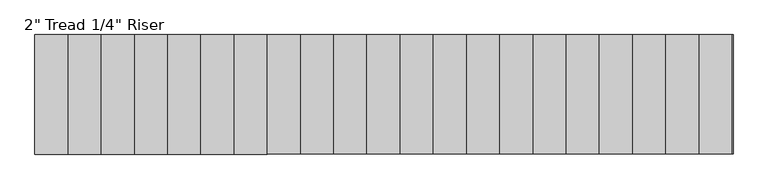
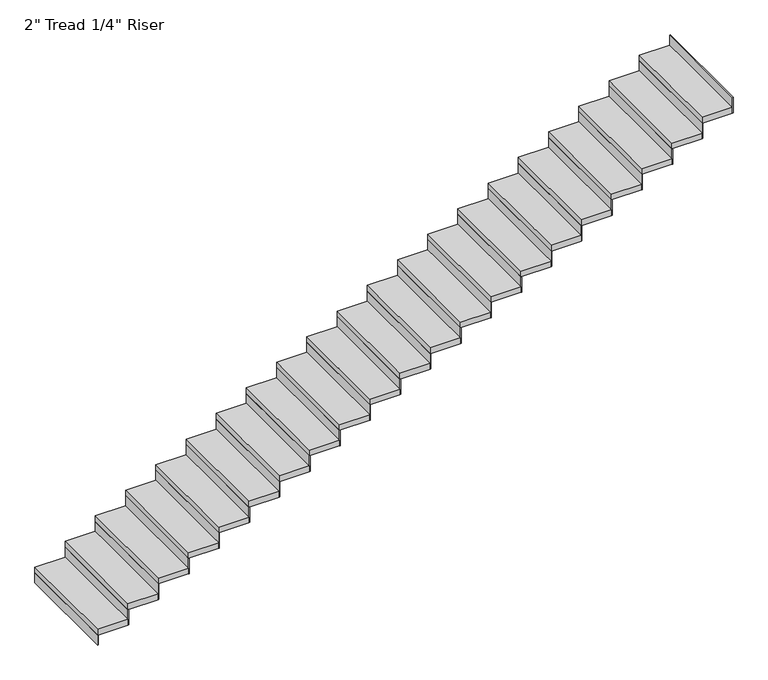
"""IFC4 building model written with IfcOpenShell, lengths in millimetres: stair flight geometry."""

from ifc_helpers import new_model, si_unit, frame, origin, origin_with_axes, place, context, project, spatial, polyline, outline, extrude, source, transform, mapped, element, save


def stair_flight_5e9071b4(model_context):
    return source(origin(), model_context, "Body", "SweptSolid", [
        extrude(outline(polyline([(-1725.3713318, -10136.835031), (-1731.7213318, -10136.835031), (-1731.7213318, -9222.435031), (-1725.3713318, -9222.435031), (-1725.3713318, -10136.835031)])), origin_with_axes(), (0.0, 0.0, 1.0), 87.7454545),
        extrude(outline(polyline([(-1477.7213318, -9222.435031), (-1477.7213318, -10136.835031), (-1731.7213318, -10136.835031), (-1731.7213318, -9222.435031), (-1477.7213318, -9222.435031)])), frame((0.0, 0.0, 87.7454545), z_axis=(0.0, 0.0, 1.0), x_axis=(1.0, 0.0, 0.0)), (0.0, 0.0, 1.0), 50.8),
        extrude(outline(polyline([(-1471.3713318, -10136.835031), (-1477.7213318, -10136.835031), (-1477.7213318, -9222.435031), (-1471.3713318, -9222.435031), (-1471.3713318, -10136.835031)])), frame((0.0, 0.0, 87.7454545), z_axis=(0.0, 0.0, 1.0), x_axis=(1.0, 0.0, 0.0)), (0.0, 0.0, 1.0), 138.5454545),
        extrude(outline(polyline([(-1223.7213318, -9222.435031), (-1223.7213318, -10136.835031), (-1477.7213318, -10136.835031), (-1477.7213318, -9222.435031), (-1223.7213318, -9222.435031)])), frame((0.0, 0.0, 226.2909091), z_axis=(0.0, 0.0, 1.0), x_axis=(1.0, 0.0, 0.0)), (0.0, 0.0, 1.0), 50.8),
        extrude(outline(polyline([(-1217.3713318, -10136.835031), (-1223.7213318, -10136.835031), (-1223.7213318, -9222.435031), (-1217.3713318, -9222.435031), (-1217.3713318, -10136.835031)])), frame((0.0, 0.0, 226.2909091), z_axis=(0.0, 0.0, 1.0), x_axis=(1.0, 0.0, 0.0)), (0.0, 0.0, 1.0), 138.5454545),
        extrude(outline(polyline([(-969.7213318, -9222.435031), (-969.7213318, -10136.835031), (-1223.7213318, -10136.835031), (-1223.7213318, -9222.435031), (-969.7213318, -9222.435031)])), frame((0.0, 0.0, 364.8363636), z_axis=(0.0, 0.0, 1.0), x_axis=(1.0, 0.0, 0.0)), (0.0, 0.0, 1.0), 50.8),
        extrude(outline(polyline([(-963.3713318, -10136.835031), (-969.7213318, -10136.835031), (-969.7213318, -9222.435031), (-963.3713318, -9222.435031), (-963.3713318, -10136.835031)])), frame((0.0, 0.0, 364.8363636), z_axis=(0.0, 0.0, 1.0), x_axis=(1.0, 0.0, 0.0)), (0.0, 0.0, 1.0), 138.5454545),
        extrude(outline(polyline([(-715.7213318, -9222.435031), (-715.7213318, -10136.835031), (-969.7213318, -10136.835031), (-969.7213318, -9222.435031), (-715.7213318, -9222.435031)])), frame((0.0, 0.0, 503.3818182), z_axis=(0.0, 0.0, 1.0), x_axis=(1.0, 0.0, 0.0)), (0.0, 0.0, 1.0), 50.8),
        extrude(outline(polyline([(-709.3713318, -10136.835031), (-715.7213318, -10136.835031), (-715.7213318, -9222.435031), (-709.3713318, -9222.435031), (-709.3713318, -10136.835031)])), frame((0.0, 0.0, 503.3818182), z_axis=(0.0, 0.0, 1.0), x_axis=(1.0, 0.0, 0.0)), (0.0, 0.0, 1.0), 138.5454545),
        extrude(outline(polyline([(-461.7213318, -9222.435031), (-461.7213318, -10136.835031), (-715.7213318, -10136.835031), (-715.7213318, -9222.435031), (-461.7213318, -9222.435031)])), frame((0.0, 0.0, 641.9272727), z_axis=(0.0, 0.0, 1.0), x_axis=(1.0, 0.0, 0.0)), (0.0, 0.0, 1.0), 50.8),
        extrude(outline(polyline([(-455.3713318, -10136.835031), (-461.7213318, -10136.835031), (-461.7213318, -9222.435031), (-455.3713318, -9222.435031), (-455.3713318, -10136.835031)])), frame((0.0, 0.0, 641.9272727), z_axis=(0.0, 0.0, 1.0), x_axis=(1.0, 0.0, 0.0)), (0.0, 0.0, 1.0), 138.5454545),
        extrude(outline(polyline([(-207.7213318, -9222.435031), (-207.7213318, -10136.835031), (-461.7213318, -10136.835031), (-461.7213318, -9222.435031), (-207.7213318, -9222.435031)])), frame((0.0, 0.0, 780.4727273), z_axis=(0.0, 0.0, 1.0), x_axis=(1.0, 0.0, 0.0)), (0.0, 0.0, 1.0), 50.8),
        extrude(outline(polyline([(-201.3713318, -10136.835031), (-207.7213318, -10136.835031), (-207.7213318, -9222.435031), (-201.3713318, -9222.435031), (-201.3713318, -10136.835031)])), frame((0.0, 0.0, 780.4727273), z_axis=(0.0, 0.0, 1.0), x_axis=(1.0, 0.0, 0.0)), (0.0, 0.0, 1.0), 138.5454545),
        extrude(outline(polyline([(46.2786682, -9222.435031), (46.2786682, -10136.835031), (-207.7213318, -10136.835031), (-207.7213318, -9222.435031), (46.2786682, -9222.435031)])), frame((0.0, 0.0, 919.0181818), z_axis=(0.0, 0.0, 1.0), x_axis=(1.0, 0.0, 0.0)), (0.0, 0.0, 1.0), 50.8),
        extrude(outline(polyline([(52.6286682, -10136.835031), (46.2786682, -10136.835031), (46.2786682, -9222.435031), (52.6286682, -9222.435031), (52.6286682, -10136.835031)])), frame((0.0, 0.0, 919.0181818), z_axis=(0.0, 0.0, 1.0), x_axis=(1.0, 0.0, 0.0)), (0.0, 0.0, 1.0), 138.5454545),
        extrude(outline(polyline([(300.2786682, -9222.435031), (300.2786682, -10136.835031), (46.2786682, -10136.835031), (46.2786682, -9222.435031), (300.2786682, -9222.435031)])), frame((0.0, 0.0, 1057.5636364), z_axis=(0.0, 0.0, 1.0), x_axis=(1.0, 0.0, 0.0)), (0.0, 0.0, 1.0), 50.8),
        extrude(outline(polyline([(306.6286682, -10136.835031), (300.2786682, -10136.835031), (300.2786682, -9222.435031), (306.6286682, -9222.435031), (306.6286682, -10136.835031)])), frame((0.0, 0.0, 1057.5636364), z_axis=(0.0, 0.0, 1.0), x_axis=(1.0, 0.0, 0.0)), (0.0, 0.0, 1.0), 138.5454545),
        extrude(outline(polyline([(554.2786682, -9222.435031), (554.2786682, -10136.835031), (300.2786682, -10136.835031), (300.2786682, -9222.435031), (554.2786682, -9222.435031)])), frame((0.0, 0.0, 1196.1090909), z_axis=(0.0, 0.0, 1.0), x_axis=(1.0, 0.0, 0.0)), (0.0, 0.0, 1.0), 50.8),
        extrude(outline(polyline([(560.6286682, -10136.835031), (554.2786682, -10136.835031), (554.2786682, -9222.435031), (560.6286682, -9222.435031), (560.6286682, -10136.835031)])), frame((0.0, 0.0, 1196.1090909), z_axis=(0.0, 0.0, 1.0), x_axis=(1.0, 0.0, 0.0)), (0.0, 0.0, 1.0), 138.5454545),
        extrude(outline(polyline([(808.2786682, -9222.435031), (808.2786682, -10136.835031), (554.2786682, -10136.835031), (554.2786682, -9222.435031), (808.2786682, -9222.435031)])), frame((0.0, 0.0, 1334.6545455), z_axis=(0.0, 0.0, 1.0), x_axis=(1.0, 0.0, 0.0)), (0.0, 0.0, 1.0), 50.8),
        extrude(outline(polyline([(814.6286682, -10136.835031), (808.2786682, -10136.835031), (808.2786682, -9222.435031), (814.6286682, -9222.435031), (814.6286682, -10136.835031)])), frame((0.0, 0.0, 1334.6545455), z_axis=(0.0, 0.0, 1.0), x_axis=(1.0, 0.0, 0.0)), (0.0, 0.0, 1.0), 138.5454545),
        extrude(outline(polyline([(1062.2786682, -9222.435031), (1062.2786682, -10136.835031), (808.2786682, -10136.835031), (808.2786682, -9222.435031), (1062.2786682, -9222.435031)])), frame((0.0, 0.0, 1473.2), z_axis=(0.0, 0.0, 1.0), x_axis=(1.0, 0.0, 0.0)), (0.0, 0.0, 1.0), 50.8),
        extrude(outline(polyline([(1068.6286682, -10136.835031), (1062.2786682, -10136.835031), (1062.2786682, -9222.435031), (1068.6286682, -9222.435031), (1068.6286682, -10136.835031)])), frame((0.0, 0.0, 1473.2), z_axis=(0.0, 0.0, 1.0), x_axis=(1.0, 0.0, 0.0)), (0.0, 0.0, 1.0), 138.5454545),
        extrude(outline(polyline([(1316.2786682, -9222.435031), (1316.2786682, -10136.835031), (1062.2786682, -10136.835031), (1062.2786682, -9222.435031), (1316.2786682, -9222.435031)])), frame((0.0, 0.0, 1611.7454545), z_axis=(0.0, 0.0, 1.0), x_axis=(1.0, 0.0, 0.0)), (0.0, 0.0, 1.0), 50.8),
        extrude(outline(polyline([(1322.6286682, -10136.835031), (1316.2786682, -10136.835031), (1316.2786682, -9222.435031), (1322.6286682, -9222.435031), (1322.6286682, -10136.835031)])), frame((0.0, 0.0, 1611.7454545), z_axis=(0.0, 0.0, 1.0), x_axis=(1.0, 0.0, 0.0)), (0.0, 0.0, 1.0), 138.5454545),
        extrude(outline(polyline([(1570.2786682, -9222.435031), (1570.2786682, -10136.835031), (1316.2786682, -10136.835031), (1316.2786682, -9222.435031), (1570.2786682, -9222.435031)])), frame((0.0, 0.0, 1750.2909091), z_axis=(0.0, 0.0, 1.0), x_axis=(1.0, 0.0, 0.0)), (0.0, 0.0, 1.0), 50.8),
        extrude(outline(polyline([(1576.6286682, -10136.835031), (1570.2786682, -10136.835031), (1570.2786682, -9222.435031), (1576.6286682, -9222.435031), (1576.6286682, -10136.835031)])), frame((0.0, 0.0, 1750.2909091), z_axis=(0.0, 0.0, 1.0), x_axis=(1.0, 0.0, 0.0)), (0.0, 0.0, 1.0), 138.5454545),
        extrude(outline(polyline([(1824.2786682, -9222.435031), (1824.2786682, -10136.835031), (1570.2786682, -10136.835031), (1570.2786682, -9222.435031), (1824.2786682, -9222.435031)])), frame((0.0, 0.0, 1888.8363636), z_axis=(0.0, 0.0, 1.0), x_axis=(1.0, 0.0, 0.0)), (0.0, 0.0, 1.0), 50.8),
        extrude(outline(polyline([(1830.6286682, -10136.835031), (1824.2786682, -10136.835031), (1824.2786682, -9222.435031), (1830.6286682, -9222.435031), (1830.6286682, -10136.835031)])), frame((0.0, 0.0, 1888.8363636), z_axis=(0.0, 0.0, 1.0), x_axis=(1.0, 0.0, 0.0)), (0.0, 0.0, 1.0), 138.5454545),
        extrude(outline(polyline([(2078.2786682, -9222.435031), (2078.2786682, -10136.835031), (1824.2786682, -10136.835031), (1824.2786682, -9222.435031), (2078.2786682, -9222.435031)])), frame((0.0, 0.0, 2027.3818182), z_axis=(0.0, 0.0, 1.0), x_axis=(1.0, 0.0, 0.0)), (0.0, 0.0, 1.0), 50.8),
        extrude(outline(polyline([(2084.6286682, -10136.835031), (2078.2786682, -10136.835031), (2078.2786682, -9222.435031), (2084.6286682, -9222.435031), (2084.6286682, -10136.835031)])), frame((0.0, 0.0, 2027.3818182), z_axis=(0.0, 0.0, 1.0), x_axis=(1.0, 0.0, 0.0)), (0.0, 0.0, 1.0), 138.5454545),
        extrude(outline(polyline([(2332.2786682, -9222.435031), (2332.2786682, -10136.835031), (2078.2786682, -10136.835031), (2078.2786682, -9222.435031), (2332.2786682, -9222.435031)])), frame((0.0, 0.0, 2165.9272727), z_axis=(0.0, 0.0, 1.0), x_axis=(1.0, 0.0, 0.0)), (0.0, 0.0, 1.0), 50.8),
        extrude(outline(polyline([(2338.6286682, -10136.835031), (2332.2786682, -10136.835031), (2332.2786682, -9222.435031), (2338.6286682, -9222.435031), (2338.6286682, -10136.835031)])), frame((0.0, 0.0, 2165.9272727), z_axis=(0.0, 0.0, 1.0), x_axis=(1.0, 0.0, 0.0)), (0.0, 0.0, 1.0), 138.5454545),
        extrude(outline(polyline([(2586.2786682, -9222.435031), (2586.2786682, -10136.835031), (2332.2786682, -10136.835031), (2332.2786682, -9222.435031), (2586.2786682, -9222.435031)])), frame((0.0, 0.0, 2304.4727273), z_axis=(0.0, 0.0, 1.0), x_axis=(1.0, 0.0, 0.0)), (0.0, 0.0, 1.0), 50.8),
        extrude(outline(polyline([(2592.6286682, -10136.835031), (2586.2786682, -10136.835031), (2586.2786682, -9222.435031), (2592.6286682, -9222.435031), (2592.6286682, -10136.835031)])), frame((0.0, 0.0, 2304.4727273), z_axis=(0.0, 0.0, 1.0), x_axis=(1.0, 0.0, 0.0)), (0.0, 0.0, 1.0), 138.5454545),
        extrude(outline(polyline([(2840.2786682, -9222.435031), (2840.2786682, -10136.835031), (2586.2786682, -10136.835031), (2586.2786682, -9222.435031), (2840.2786682, -9222.435031)])), frame((0.0, 0.0, 2443.0181818), z_axis=(0.0, 0.0, 1.0), x_axis=(1.0, 0.0, 0.0)), (0.0, 0.0, 1.0), 50.8),
        extrude(outline(polyline([(2846.6286682, -10136.835031), (2840.2786682, -10136.835031), (2840.2786682, -9222.435031), (2846.6286682, -9222.435031), (2846.6286682, -10136.835031)])), frame((0.0, 0.0, 2443.0181818), z_axis=(0.0, 0.0, 1.0), x_axis=(1.0, 0.0, 0.0)), (0.0, 0.0, 1.0), 138.5454545),
        extrude(outline(polyline([(3094.2786682, -9222.435031), (3094.2786682, -10136.835031), (2840.2786682, -10136.835031), (2840.2786682, -9222.435031), (3094.2786682, -9222.435031)])), frame((0.0, 0.0, 2581.5636364), z_axis=(0.0, 0.0, 1.0), x_axis=(1.0, 0.0, 0.0)), (0.0, 0.0, 1.0), 50.8),
        extrude(outline(polyline([(3100.6286682, -10136.835031), (3094.2786682, -10136.835031), (3094.2786682, -9222.435031), (3100.6286682, -9222.435031), (3100.6286682, -10136.835031)])), frame((0.0, 0.0, 2581.5636364), z_axis=(0.0, 0.0, 1.0), x_axis=(1.0, 0.0, 0.0)), (0.0, 0.0, 1.0), 138.5454545),
        extrude(outline(polyline([(3348.2786682, -9222.435031), (3348.2786682, -10136.835031), (3094.2786682, -10136.835031), (3094.2786682, -9222.435031), (3348.2786682, -9222.435031)])), frame((0.0, 0.0, 2720.1090909), z_axis=(0.0, 0.0, 1.0), x_axis=(1.0, 0.0, 0.0)), (0.0, 0.0, 1.0), 50.8),
        extrude(outline(polyline([(3354.6286682, -10136.835031), (3348.2786682, -10136.835031), (3348.2786682, -9222.435031), (3354.6286682, -9222.435031), (3354.6286682, -10136.835031)])), frame((0.0, 0.0, 2720.1090909), z_axis=(0.0, 0.0, 1.0), x_axis=(1.0, 0.0, 0.0)), (0.0, 0.0, 1.0), 138.5454545),
        extrude(outline(polyline([(3608.6286682, -10136.835031), (3602.2786682, -10136.835031), (3602.2786682, -9222.435031), (3608.6286682, -9222.435031), (3608.6286682, -10136.835031)])), frame((0.0, 0.0, 2858.6545455), z_axis=(0.0, 0.0, 1.0), x_axis=(1.0, 0.0, 0.0)), (0.0, 0.0, 1.0), 138.5454545),
        extrude(outline(polyline([(3602.2786682, -9222.435031), (3602.2786682, -10136.835031), (3348.2786682, -10136.835031), (3348.2786682, -9222.435031), (3602.2786682, -9222.435031)])), frame((0.0, 0.0, 2858.6545455), z_axis=(0.0, 0.0, 1.0), x_axis=(1.0, 0.0, 0.0)), (0.0, 0.0, 1.0), 50.8),
    ])


if __name__ == "__main__":
    model = new_model("IFC4")
    model_context = context("Model", 3, world=origin())
    ifc_project = project(units=[si_unit("LENGTHUNIT", "METRE", prefix="MILLI")], contexts=[model_context])
    site = spatial("IfcSite", under=ifc_project)
    building = spatial("IfcBuilding", under=site)
    placement = place(None, origin())
    stair_flight_shape = stair_flight_5e9071b4(model_context)
    element("IfcStairFlight", 1, ObjectType="2\" Tread 1/4\" Riser", at=placement, inside=building, context=model_context, shape_type="MappedRepresentation", body=[
        mapped(stair_flight_shape, transform((0.0, 0.0, 0.0), x_axis=(1.0, 0.0, 0.0), y_axis=(0.0, 1.0, 0.0), z_axis=(0.0, 0.0, 1.0))),
    ])
    save(model, "model.ifc")
